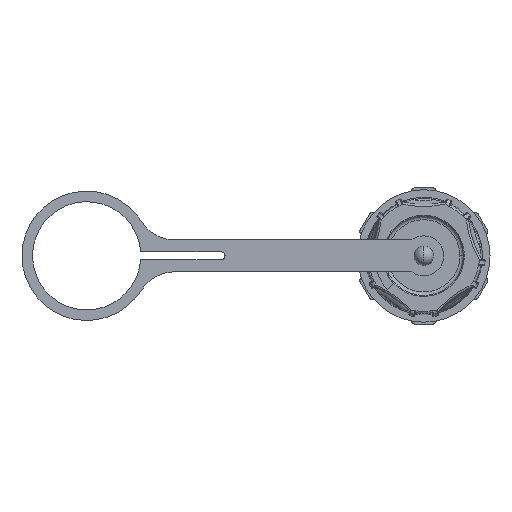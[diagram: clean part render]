
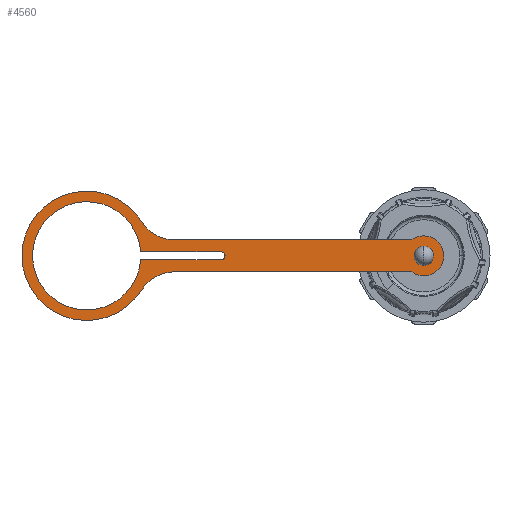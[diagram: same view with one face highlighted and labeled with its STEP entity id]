
A CAD part, top view. The second image highlights one B-rep face of the part: STEP entity #4560.
In plain terms, the highlighted planar face has unit normal (0, 0, 1).
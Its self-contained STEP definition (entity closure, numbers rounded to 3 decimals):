
#44 = VERTEX_POINT ( 'NONE', #20153 ) ;
#214 = EDGE_CURVE ( 'NONE', #19699, #15250, #15504, .T. ) ;
#282 = CARTESIAN_POINT ( 'NONE',  ( -52., -1., 16.737 ) ) ;
#308 = VERTEX_POINT ( 'NONE', #15815 ) ;
#388 = VERTEX_POINT ( 'NONE', #5858 ) ;
#528 = CARTESIAN_POINT ( 'NONE',  ( -72.424, 8.799, 16.737 ) ) ;
#551 = DIRECTION ( 'NONE',  ( 1., 0., 0. ) ) ;
#713 = DIRECTION ( 'NONE',  ( 0., 0., -1. ) ) ;
#1106 = AXIS2_PLACEMENT_3D ( 'NONE', #13709, #20164, #5656 ) ;
#1140 = ORIENTED_EDGE ( 'NONE', *, *, #2861, .T. ) ;
#1372 = DIRECTION ( 'NONE',  ( -1., 0., 0. ) ) ;
#1443 = EDGE_CURVE ( 'NONE', #388, #12111, #17261, .T. ) ;
#1630 = EDGE_CURVE ( 'NONE', #4362, #19699, #5757, .T. ) ;
#2247 = CIRCLE ( 'NONE', #19539, 13.9 ) ;
#2820 = CARTESIAN_POINT ( 'NONE',  ( -72.636, 1., 16.737 ) ) ;
#2861 = EDGE_CURVE ( 'NONE', #15250, #18669, #4432, .T. ) ;
#2877 = DIRECTION ( 'NONE',  ( 1., 0., 0. ) ) ;
#2940 = DIRECTION ( 'NONE',  ( -1., 0., 0. ) ) ;
#3067 = DIRECTION ( 'NONE',  ( 0., 0., 1. ) ) ;
#3261 = EDGE_CURVE ( 'NONE', #44, #12421, #14112, .T. ) ;
#3432 = VECTOR ( 'NONE', #2877, 1000. ) ;
#3589 = FACE_BOUND ( 'NONE', #4752, .T. ) ;
#3606 = CARTESIAN_POINT ( 'NONE',  ( -86.5, 0., 16.737 ) ) ;
#3739 = CARTESIAN_POINT ( 'NONE',  ( -3.075, -4.1, 16.737 ) ) ;
#3755 = EDGE_CURVE ( 'NONE', #308, #4362, #18667, .T. ) ;
#4362 = VERTEX_POINT ( 'NONE', #7097 ) ;
#4432 = CIRCLE ( 'NONE', #7139, 5.125 ) ;
#4560 = ADVANCED_FACE ( 'NONE', ( #19706, #8370, #3589 ), #6888, .T. ) ;
#4752 = EDGE_LOOP ( 'NONE', ( #12767, #12653 ) ) ;
#5358 = CARTESIAN_POINT ( 'NONE',  ( -52., 0., 16.737 ) ) ;
#5532 = CARTESIAN_POINT ( 'NONE',  ( -86.5, 0., 16.737 ) ) ;
#5656 = DIRECTION ( 'NONE',  ( 1., 0., 0. ) ) ;
#5757 = CIRCLE ( 'NONE', #18958, 10. ) ;
#5858 = CARTESIAN_POINT ( 'NONE',  ( -63.945, 4.1, 16.737 ) ) ;
#5975 = LINE ( 'NONE', #12450, #13419 ) ;
#6508 = CARTESIAN_POINT ( 'NONE',  ( -3.075, -4.1, 16.737 ) ) ;
#6775 = VECTOR ( 'NONE', #19853, 1000. ) ;
#6888 = PLANE ( 'NONE',  #19335 ) ;
#7097 = CARTESIAN_POINT ( 'NONE',  ( -72.424, -8.799, 16.737 ) ) ;
#7134 = VERTEX_POINT ( 'NONE', #13144 ) ;
#7139 = AXIS2_PLACEMENT_3D ( 'NONE', #10549, #19020, #12996 ) ;
#7245 = CARTESIAN_POINT ( 'NONE',  ( -52., 1., 16.737 ) ) ;
#7279 = CIRCLE ( 'NONE', #11705, 2.381 ) ;
#7743 = CARTESIAN_POINT ( 'NONE',  ( -63.945, 14.1, 16.737 ) ) ;
#7880 = ORIENTED_EDGE ( 'NONE', *, *, #19558, .F. ) ;
#8039 = DIRECTION ( 'NONE',  ( 1., 0., 0. ) ) ;
#8354 = VECTOR ( 'NONE', #2940, 1000. ) ;
#8370 = FACE_OUTER_BOUND ( 'NONE', #11114, .T. ) ;
#8466 = CARTESIAN_POINT ( 'NONE',  ( 0., 0., 16.737 ) ) ;
#8491 = ORIENTED_EDGE ( 'NONE', *, *, #18989, .T. ) ;
#8634 = VERTEX_POINT ( 'NONE', #7245 ) ;
#8675 = CARTESIAN_POINT ( 'NONE',  ( -63.945, -14.1, 16.737 ) ) ;
#9511 = DIRECTION ( 'NONE',  ( 0., 0., 1. ) ) ;
#9522 = CARTESIAN_POINT ( 'NONE',  ( 2.381, 0., 16.737 ) ) ;
#9937 = CIRCLE ( 'NONE', #1106, 16.6 ) ;
#10087 = DIRECTION ( 'NONE',  ( 1., 0., 0. ) ) ;
#10141 = DIRECTION ( 'NONE',  ( 0., 0., 1. ) ) ;
#10549 = CARTESIAN_POINT ( 'NONE',  ( 0., 0., 16.737 ) ) ;
#10553 = AXIS2_PLACEMENT_3D ( 'NONE', #15429, #19024, #12359 ) ;
#10649 = DIRECTION ( 'NONE',  ( -1., 0., 0. ) ) ;
#10691 = AXIS2_PLACEMENT_3D ( 'NONE', #17599, #3067, #12831 ) ;
#10861 = ORIENTED_EDGE ( 'NONE', *, *, #3261, .F. ) ;
#10866 = CARTESIAN_POINT ( 'NONE',  ( -100.4, 0., 16.737 ) ) ;
#10918 = ORIENTED_EDGE ( 'NONE', *, *, #12143, .F. ) ;
#11114 = EDGE_LOOP ( 'NONE', ( #1140, #8491, #14537, #15060, #20901, #13817, #14727 ) ) ;
#11174 = VERTEX_POINT ( 'NONE', #10866 ) ;
#11705 = AXIS2_PLACEMENT_3D ( 'NONE', #14714, #9511, #8039 ) ;
#11835 = VERTEX_POINT ( 'NONE', #2820 ) ;
#11856 = ORIENTED_EDGE ( 'NONE', *, *, #12527, .F. ) ;
#12111 = VERTEX_POINT ( 'NONE', #528 ) ;
#12143 = EDGE_CURVE ( 'NONE', #11174, #44, #16370, .T. ) ;
#12359 = DIRECTION ( 'NONE',  ( 1., 0., 0. ) ) ;
#12421 = VERTEX_POINT ( 'NONE', #282 ) ;
#12450 = CARTESIAN_POINT ( 'NONE',  ( -72.636, 1., 16.737 ) ) ;
#12527 = EDGE_CURVE ( 'NONE', #12421, #8634, #17676, .T. ) ;
#12653 = ORIENTED_EDGE ( 'NONE', *, *, #16698, .F. ) ;
#12767 = ORIENTED_EDGE ( 'NONE', *, *, #17835, .F. ) ;
#12831 = DIRECTION ( 'NONE',  ( 1., 0., 0. ) ) ;
#12996 = DIRECTION ( 'NONE',  ( 1., 0., 0. ) ) ;
#13144 = CARTESIAN_POINT ( 'NONE',  ( -2.381, 0., 16.737 ) ) ;
#13419 = VECTOR ( 'NONE', #10649, 1000. ) ;
#13619 = DIRECTION ( 'NONE',  ( 1., 0., 0. ) ) ;
#13709 = CARTESIAN_POINT ( 'NONE',  ( -86.5, 0., 16.737 ) ) ;
#13817 = ORIENTED_EDGE ( 'NONE', *, *, #1630, .T. ) ;
#14105 = VERTEX_POINT ( 'NONE', #9522 ) ;
#14112 = LINE ( 'NONE', #14210, #3432 ) ;
#14210 = CARTESIAN_POINT ( 'NONE',  ( -72.636, -1., 16.737 ) ) ;
#14537 = ORIENTED_EDGE ( 'NONE', *, *, #1443, .T. ) ;
#14714 = CARTESIAN_POINT ( 'NONE',  ( 0., 0., 16.737 ) ) ;
#14727 = ORIENTED_EDGE ( 'NONE', *, *, #214, .T. ) ;
#14835 = DIRECTION ( 'NONE',  ( 1., 0., 0. ) ) ;
#15060 = ORIENTED_EDGE ( 'NONE', *, *, #15150, .T. ) ;
#15150 = EDGE_CURVE ( 'NONE', #12111, #308, #9937, .T. ) ;
#15250 = VERTEX_POINT ( 'NONE', #6508 ) ;
#15429 = CARTESIAN_POINT ( 'NONE',  ( -86.5, 0., 16.737 ) ) ;
#15504 = LINE ( 'NONE', #3739, #6775 ) ;
#15693 = DIRECTION ( 'NONE',  ( 0., 0., -1. ) ) ;
#15706 = EDGE_LOOP ( 'NONE', ( #10861, #10918, #7880, #17804, #11856 ) ) ;
#15815 = CARTESIAN_POINT ( 'NONE',  ( -103.1, 0., 16.737 ) ) ;
#15919 = AXIS2_PLACEMENT_3D ( 'NONE', #7743, #15693, #1372 ) ;
#15943 = EDGE_CURVE ( 'NONE', #8634, #11835, #5975, .T. ) ;
#16370 = CIRCLE ( 'NONE', #20697, 13.9 ) ;
#16698 = EDGE_CURVE ( 'NONE', #7134, #14105, #7279, .T. ) ;
#16942 = DIRECTION ( 'NONE',  ( 1., 0., 0. ) ) ;
#17261 = CIRCLE ( 'NONE', #15919, 10. ) ;
#17579 = LINE ( 'NONE', #20533, #8354 ) ;
#17599 = CARTESIAN_POINT ( 'NONE',  ( 0., 0., 16.737 ) ) ;
#17676 = CIRCLE ( 'NONE', #17724, 1. ) ;
#17724 = AXIS2_PLACEMENT_3D ( 'NONE', #5358, #10141, #13619 ) ;
#17804 = ORIENTED_EDGE ( 'NONE', *, *, #15943, .F. ) ;
#17835 = EDGE_CURVE ( 'NONE', #14105, #7134, #19821, .T. ) ;
#18462 = DIRECTION ( 'NONE',  ( 0., 0., 1. ) ) ;
#18667 = CIRCLE ( 'NONE', #10553, 16.6 ) ;
#18669 = VERTEX_POINT ( 'NONE', #19808 ) ;
#18958 = AXIS2_PLACEMENT_3D ( 'NONE', #8675, #713, #16942 ) ;
#18989 = EDGE_CURVE ( 'NONE', #18669, #388, #17579, .T. ) ;
#19020 = DIRECTION ( 'NONE',  ( 0., 0., 1. ) ) ;
#19024 = DIRECTION ( 'NONE',  ( 0., 0., 1. ) ) ;
#19335 = AXIS2_PLACEMENT_3D ( 'NONE', #8466, #19903, #14835 ) ;
#19539 = AXIS2_PLACEMENT_3D ( 'NONE', #5532, #18462, #551 ) ;
#19558 = EDGE_CURVE ( 'NONE', #11835, #11174, #2247, .T. ) ;
#19699 = VERTEX_POINT ( 'NONE', #20346 ) ;
#19706 = FACE_BOUND ( 'NONE', #15706, .T. ) ;
#19808 = CARTESIAN_POINT ( 'NONE',  ( -3.075, 4.1, 16.737 ) ) ;
#19821 = CIRCLE ( 'NONE', #10691, 2.381 ) ;
#19853 = DIRECTION ( 'NONE',  ( 1., 0., 0. ) ) ;
#19903 = DIRECTION ( 'NONE',  ( 0., 0., 1. ) ) ;
#19916 = DIRECTION ( 'NONE',  ( 0., 0., 1. ) ) ;
#20153 = CARTESIAN_POINT ( 'NONE',  ( -72.636, -1., 16.737 ) ) ;
#20164 = DIRECTION ( 'NONE',  ( 0., 0., 1. ) ) ;
#20346 = CARTESIAN_POINT ( 'NONE',  ( -63.945, -4.1, 16.737 ) ) ;
#20533 = CARTESIAN_POINT ( 'NONE',  ( -3.075, 4.1, 16.737 ) ) ;
#20697 = AXIS2_PLACEMENT_3D ( 'NONE', #3606, #19916, #10087 ) ;
#20901 = ORIENTED_EDGE ( 'NONE', *, *, #3755, .T. ) ;
